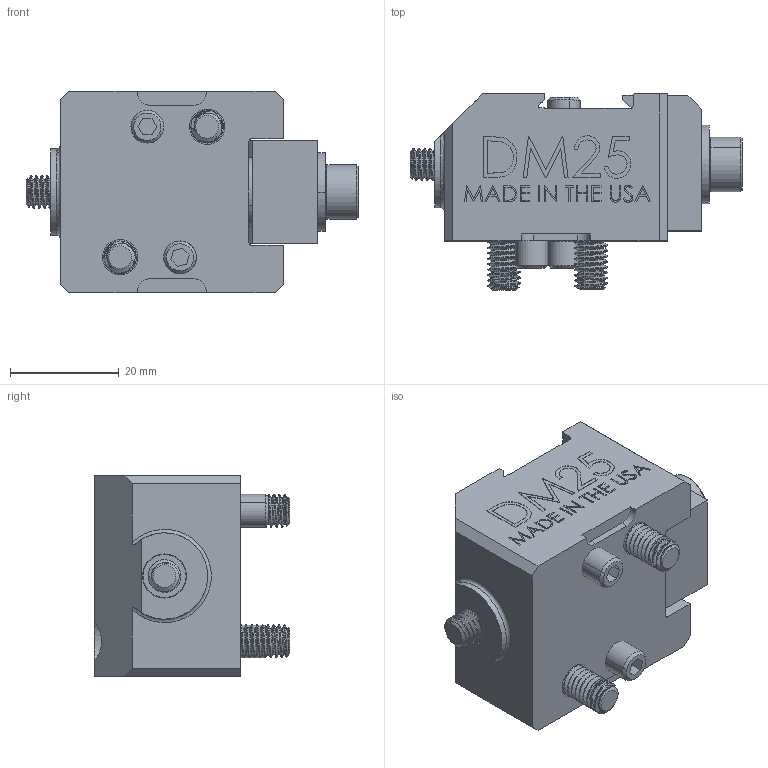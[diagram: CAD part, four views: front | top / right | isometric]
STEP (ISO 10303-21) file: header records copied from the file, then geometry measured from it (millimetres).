
FILE_DESCRIPTION (( 'STEP AP214' ), '1' );
FILE_NAME ('DM25.STEP', '2019-05-07T17:00:13', ( '' ), ( '' ), 'SwSTEP 2.0', 'SolidWorks 2018', '' );
FILE_SCHEMA (( 'AUTOMOTIVE_DESIGN' ));
Length unit declared in the file: millimetre
Products named in the file (10): DM25; 76172_91290A326; LP6_LP6; HW.16101; HW.LCM110E01M; SLD25_SLD25; HW.M6.FW; 76200_91290A206; CDS25M; DM25-1
Assembly tree (12 placements, depth 2):
  DM25
    DM25-1
    CDS25M
    76200_91290A206
    HW.M6.FW
    SLD25_SLD25
    HW.LCM110E01M
    HW.16101
    LP6_LP6  x3
    76172_91290A326  x2
Bounding box: 61 x 36 x 37 mm (x, y, z)
Volume: 39488.1 mm3; surface area: 21382.9 mm2
Topology: 12 solids, 12 shells, 1153 faces, 3106 edges, 2043 vertices
Faces by surface type: cylinder 502, plane 442, bspline 133, cone 75, torus 1
Entity records: 49251 total; most frequent: CARTESIAN_POINT 22403, ORIENTED_EDGE 5214, DIRECTION 3606, EDGE_CURVE 2607, VERTEX_POINT 1722, LINE 1482, VECTOR 1482, AXIS2_PLACEMENT_3D 1062
